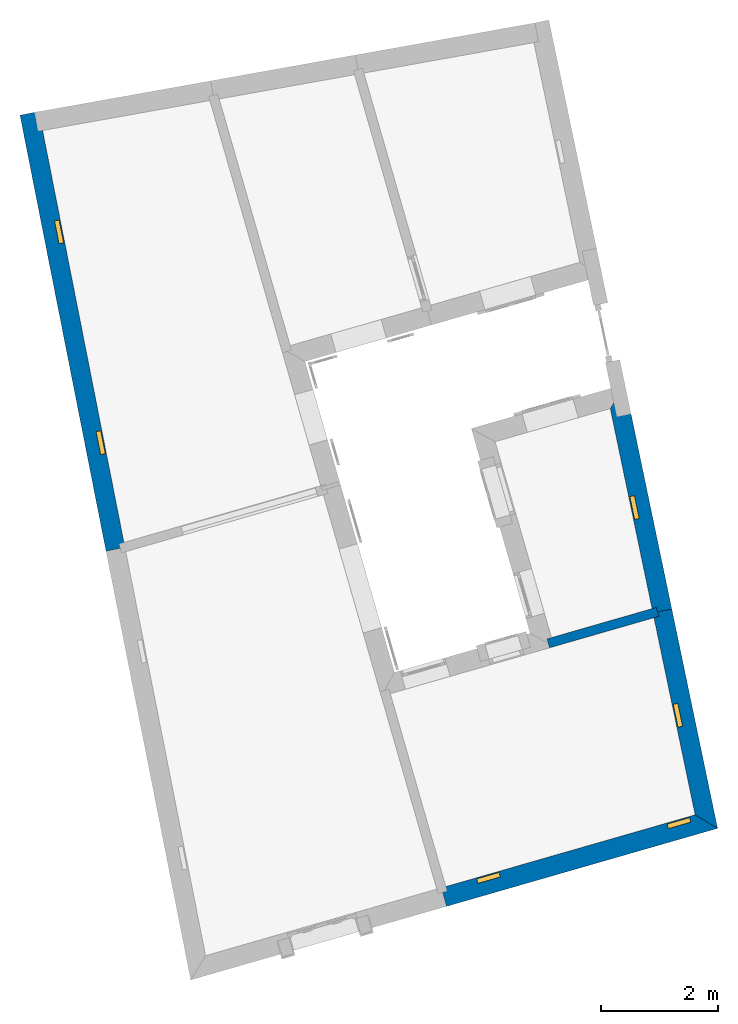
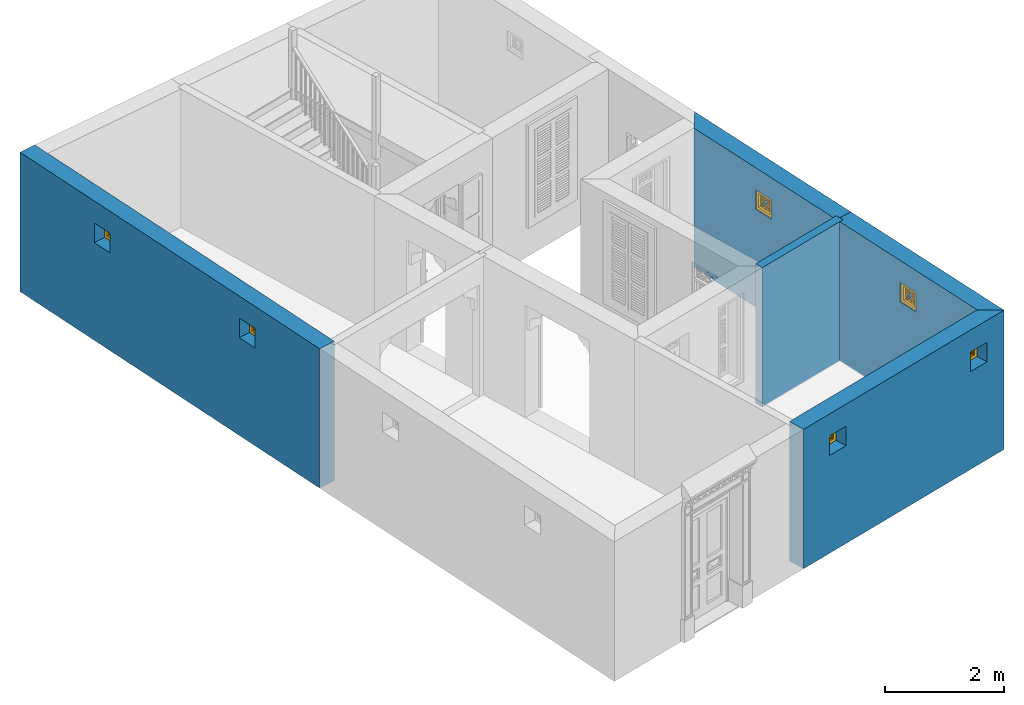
# One storey, part 7 of 16: 6 windows, 5 walls, 6 openings.
"""IFC4 building model written with IfcOpenShell, lengths in metres."""

from ifc_helpers import new_model, si_unit, frame, origin, origin_with_axes, place, context, subcontext, project, spatial, polyline, outline, extrude, faceted_brep, source, transform, mapped, material, layer, layer_set, layer_usage, type_object, type_shapes, element, fill, save


model = new_model("IFC4")

# Units and contexts
model_context = context("Model", 3, world=origin_with_axes())
body_context = subcontext(model_context, "Body", "Model", "MODEL_VIEW")
ifc_project = project(units=[si_unit("PLANEANGLEUNIT", "RADIAN"), si_unit("MASSUNIT", "GRAM", prefix="KILO"), si_unit("FORCEUNIT", "NEWTON", prefix="KILO"), si_unit("LENGTHUNIT", "METRE"), si_unit("AREAUNIT", "SQUARE_METRE"), si_unit("VOLUMEUNIT", "CUBIC_METRE")], contexts=[model_context, model_context])

# Site, building, storey
site_placement = place(None, origin_with_axes())
site = spatial("IfcSite", under=ifc_project, at=site_placement, Name="Site plot-9", CompositionType="ELEMENT")
building_placement = place(None, origin_with_axes())
building = spatial("IfcBuilding", under=site, at=building_placement, Name="Building plot-9", CompositionType="ELEMENT")
storey_placement = place(None, origin_with_axes())
storey = spatial("IfcBuildingStorey", under=building, at=storey_placement, Name="plot-9 0", CompositionType="ELEMENT", Elevation=0.0)

# Wall, openings, windows
ifc_material_1 = material(Name="Masonry")
ifc_layer_1 = layer(ifc_material_1, 0.33, ventilated=False)
ifc_layer_set_1 = layer_set([ifc_layer_1], Name="exterior_0.08_0.25")
ifc_layer_usage_1 = layer_usage(ifc_layer_set_1, "AXIS2", "POSITIVE", -0.25)
wall_type_1 = type_object("IfcWallType", Name="exterior_0.08_0.25", PredefinedType="SOLIDWALL", material=ifc_layer_set_1)
wall_1_placement = place(storey_placement, frame((-23.0511228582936, 7.53920584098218, 0.0), z_axis=(0.0, 0.0, 1.0), x_axis=(0.193675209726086, -0.981065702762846, 0.0)))
wall_1 = element("IfcWall", 1, at=wall_1_placement, inside=storey, type_object=wall_type_1, material=ifc_layer_usage_1, Name="exterior", context=body_context, shape_type="SweptSolid", body=[
    extrude(outline(polyline([(-0.249999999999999, 0.0800000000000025), (-0.249999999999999, -0.249999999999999), (7.37324033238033, -0.249999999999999), (7.37324033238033, 0.0800000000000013), (-0.249999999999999, 0.0800000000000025)])), origin_with_axes(), (0.0, 0.0, 1.0), 2.85),
])
opening_1_placement = place(wall_1_placement, frame((1.64331008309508, 0.0, 2.0)))
opening_1 = element("IfcOpeningElement", 2, at=opening_1_placement, cuts=wall_1, Name="My Opening", ObjectType="Opening", context=body_context, shape_type="SweptSolid", body=[
    extrude(outline(polyline([(0.0, -0.270000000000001), (0.4, -0.27), (0.4, 1.1), (-2.22044604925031e-16, 1.1), (0.0, -0.270000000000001)])), origin_with_axes(), (0.0, 0.0, 1.0), 0.4),
])
opening_2_placement = place(wall_1_placement, frame((5.32993024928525, 0.0, 2.0)))
opening_2 = element("IfcOpeningElement", 3, at=opening_2_placement, cuts=wall_1, Name="My Opening", ObjectType="Opening", context=body_context, shape_type="SweptSolid", body=[
    extrude(outline(polyline([(0.0, -0.27), (0.400000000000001, -0.27), (0.400000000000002, 1.1), (0.0, 1.1), (0.0, -0.27)])), origin_with_axes(), (0.0, 0.0, 1.0), 0.4),
])
window_type = type_object("IfcWindowType", Name="barred_window", PartitioningType="DOUBLE_PANEL_HORIZONTAL", PredefinedType="NOTDEFINED")
shared_shape = source(origin(), body_context, "Body", "Brep", [
    faceted_brep([(0.4, 0.25, 0.4), (0.0, 0.25, 0.4), (0.06, 0.25, 0.34), (0.34, 0.25, 0.34), (0.06, 0.33, 0.34), (0.34, 0.33, 0.34), (0.34, 0.25, 0.06), (0.4, 0.25, 0.0), (0.4, 0.33, 0.4), (0.0, 0.33, 0.4), (0.0, 0.25, 0.0), (0.06, 0.25, 0.06), (0.06, 0.33, 0.06), (0.34, 0.33, 0.06), (0.4, 0.33, 0.0), (0.0, 0.33, 0.0), (0.136152, 0.28, 0.08), (0.08, 0.28, 0.08), (0.06, 0.28, 0.06), (0.136152, 0.28, 0.06), (0.136152, 0.29, 0.08), (0.08, 0.29, 0.08), (0.06, 0.28, 0.136152), (0.08, 0.28, 0.136152), (0.06, 0.29, 0.06), (0.136152, 0.29, 0.06), (0.170294, 0.28, 0.08), (0.170294, 0.28, 0.06), (0.136152, 0.28, 0.136152), (0.136152, 0.29, 0.136152), (0.08, 0.29, 0.136152), (0.06, 0.29, 0.136152), (0.08, 0.28, 0.170294), (0.06, 0.28, 0.170294), (0.170294, 0.29, 0.06), (0.229706, 0.28, 0.08), (0.229706, 0.28, 0.06), (0.156152, 0.28, 0.094142), (0.156152, 0.28, 0.136152), (0.185858, 0.28, 0.123848), (0.185858, 0.29, 0.123848), (0.156152, 0.29, 0.094142), (0.156152, 0.29, 0.136152), (0.229706, 0.29, 0.08), (0.170294, 0.29, 0.08), (0.2, 0.28, 0.109706), (0.2, 0.29, 0.109706), (0.06, 0.29, 0.170294), (0.094142, 0.28, 0.156152), (0.08, 0.28, 0.229706), (0.06, 0.28, 0.229706), (0.229706, 0.29, 0.06), (0.263848, 0.28, 0.08), (0.263848, 0.28, 0.06), (0.156152, 0.28, 0.156152), (0.136152, 0.28, 0.156152), (0.173553, 0.28, 0.136152), (0.173553, 0.29, 0.136152), (0.156152, 0.29, 0.156152), (0.136152, 0.29, 0.156152), (0.094142, 0.29, 0.156152), (0.08, 0.29, 0.170294), (0.06, 0.29, 0.229706), (0.123848, 0.28, 0.185858), (0.109706, 0.28, 0.2), (0.08, 0.29, 0.229706), (0.08, 0.28, 0.263848), (0.06, 0.28, 0.263848), (0.263848, 0.29, 0.06), (0.2, 0.28, 0.13799), (0.214142, 0.28, 0.123848), (0.34, 0.28, 0.06), (0.32, 0.28, 0.08), (0.181838, 0.28, 0.156152), (0.136152, 0.28, 0.173553), (0.156152, 0.28, 0.181838), (0.181838, 0.29, 0.156152), (0.2, 0.29, 0.13799), (0.214142, 0.29, 0.123848), (0.136152, 0.29, 0.173553), (0.156152, 0.29, 0.181838), (0.243848, 0.28, 0.094142), (0.243848, 0.29, 0.094142), (0.263848, 0.28, 0.136152), (0.263848, 0.29, 0.08), (0.263848, 0.29, 0.136152), (0.32, 0.29, 0.08), (0.243848, 0.28, 0.136152), (0.243848, 0.29, 0.136152), (0.06, 0.29, 0.263848), (0.123848, 0.29, 0.185858), (0.13799, 0.28, 0.2), (0.123848, 0.28, 0.214142), (0.109706, 0.29, 0.2), (0.094142, 0.28, 0.243848), (0.08, 0.28, 0.32), (0.06, 0.28, 0.34), (0.34, 0.29, 0.06), (0.218162, 0.28, 0.156152), (0.226447, 0.28, 0.136152), (0.34, 0.28, 0.229706), (0.32, 0.28, 0.229706), (0.32, 0.28, 0.170294), (0.32, 0.28, 0.136152), (0.218162, 0.29, 0.156152), (0.226447, 0.29, 0.136152), (0.13799, 0.29, 0.2), (0.32, 0.29, 0.136152), (0.08, 0.29, 0.263848), (0.06, 0.29, 0.34), (0.136152, 0.28, 0.226447), (0.156152, 0.28, 0.218162), (0.094142, 0.29, 0.243848), (0.123848, 0.29, 0.214142), (0.136152, 0.28, 0.243848), (0.136152, 0.28, 0.263848), (0.08, 0.29, 0.32), (0.136152, 0.28, 0.34), (0.136152, 0.28, 0.32), (0.34, 0.29, 0.229706), (0.243848, 0.28, 0.156152), (0.263848, 0.28, 0.156152), (0.34, 0.28, 0.263848), (0.32, 0.28, 0.263848), (0.32, 0.29, 0.229706), (0.32, 0.29, 0.170294), (0.290294, 0.28, 0.2), (0.276152, 0.28, 0.185858), (0.305858, 0.28, 0.156152), (0.243848, 0.29, 0.156152), (0.263848, 0.29, 0.156152), (0.305858, 0.29, 0.156152), (0.276152, 0.29, 0.185858), (0.290294, 0.29, 0.2), (0.136152, 0.29, 0.34), (0.136152, 0.29, 0.226447), (0.156152, 0.29, 0.218162), (0.156152, 0.28, 0.243848), (0.136152, 0.29, 0.243848), (0.156152, 0.28, 0.263848), (0.136152, 0.29, 0.263848), (0.136152, 0.29, 0.32), (0.170294, 0.28, 0.32), (0.170294, 0.28, 0.34), (0.34, 0.29, 0.263848), (0.243848, 0.28, 0.181838), (0.263848, 0.28, 0.173553), (0.34, 0.28, 0.34), (0.32, 0.28, 0.32), (0.305858, 0.28, 0.243848), (0.276152, 0.28, 0.214142), (0.26201, 0.28, 0.2), (0.243848, 0.29, 0.181838), (0.263848, 0.29, 0.173553), (0.26201, 0.29, 0.2), (0.276152, 0.29, 0.214142), (0.32, 0.29, 0.263848), (0.170294, 0.29, 0.34), (0.156152, 0.29, 0.243848), (0.173553, 0.28, 0.263848), (0.181838, 0.28, 0.243848), (0.156152, 0.28, 0.305858), (0.229706, 0.28, 0.32), (0.229706, 0.28, 0.34), (0.34, 0.29, 0.34), (0.263848, 0.28, 0.34), (0.263848, 0.28, 0.32), (0.32, 0.29, 0.32), (0.263848, 0.28, 0.263848), (0.263848, 0.28, 0.243848), (0.305858, 0.29, 0.243848), (0.263848, 0.28, 0.226447), (0.243848, 0.28, 0.218162), (0.243848, 0.29, 0.218162), (0.263848, 0.29, 0.226447), (0.156152, 0.29, 0.263848), (0.170294, 0.29, 0.32), (0.229706, 0.29, 0.34), (0.181838, 0.29, 0.243848), (0.173553, 0.29, 0.263848), (0.185858, 0.28, 0.276152), (0.2, 0.28, 0.26201), (0.156152, 0.29, 0.305858), (0.229706, 0.29, 0.32), (0.263848, 0.29, 0.34), (0.263848, 0.29, 0.32), (0.263848, 0.29, 0.263848), (0.243848, 0.28, 0.243848), (0.243848, 0.28, 0.263848), (0.263848, 0.29, 0.243848), (0.243848, 0.29, 0.243848), (0.2, 0.29, 0.26201), (0.185858, 0.29, 0.276152), (0.214142, 0.28, 0.276152), (0.218162, 0.28, 0.243848), (0.226447, 0.28, 0.263848), (0.243848, 0.28, 0.305858), (0.2, 0.28, 0.290294), (0.2, 0.29, 0.290294), (0.243848, 0.29, 0.263848), (0.218162, 0.29, 0.243848), (0.214142, 0.29, 0.276152), (0.226447, 0.29, 0.263848), (0.243848, 0.29, 0.305858)], [[[0, 1, 2, 3]], [[3, 2, 4, 5]], [[3, 6, 7, 0]], [[1, 0, 8, 9]], [[1, 10, 11, 2]], [[2, 11, 12, 4]], [[9, 8, 5, 4]], [[6, 3, 5, 13]], [[6, 11, 10, 7]], [[0, 7, 14, 8]], [[10, 1, 9, 15]], [[11, 6, 13, 12]], [[4, 12, 15, 9]], [[8, 14, 13, 5]], [[7, 10, 15, 14]], [[12, 13, 14, 15]], [[16, 17, 18, 19]], [[17, 16, 20, 21]], [[22, 18, 17, 23]], [[19, 18, 24, 25]], [[26, 16, 19, 27]], [[16, 28, 29, 20]], [[21, 20, 25, 24]], [[23, 17, 21, 30]], [[18, 22, 31, 24]], [[23, 32, 33, 22]], [[27, 19, 25, 34]], [[35, 26, 27, 36]], [[28, 16, 37, 38]], [[37, 39, 40, 41]], [[38, 37, 41, 42]], [[20, 29, 42, 41]], [[26, 35, 43, 44]], [[45, 26, 44, 46]], [[20, 44, 34, 25]], [[28, 23, 30, 29]], [[24, 31, 30, 21]], [[22, 33, 47, 31]], [[48, 32, 23]], [[32, 49, 50, 33]], [[36, 27, 34, 51]], [[39, 37, 26, 45]], [[52, 35, 36, 53]], [[38, 54, 55, 28]], [[39, 56, 57, 40]], [[41, 40, 46, 44]], [[56, 38, 42, 57]], [[58, 42, 29, 59]], [[35, 45, 46, 43]], [[44, 43, 51, 34]], [[23, 28, 55, 48]], [[29, 30, 60, 59]], [[61, 30, 31, 47]], [[33, 50, 62, 47]], [[48, 63, 64, 32]], [[49, 32, 61, 65]], [[49, 66, 67, 50]], [[53, 36, 51, 68]], [[69, 39, 45, 70]], [[53, 71, 72, 52]], [[73, 54, 38, 56]], [[74, 55, 54, 75]], [[56, 39, 69, 73]], [[40, 57, 76, 77]], [[40, 77, 78, 46]], [[58, 76, 57, 42]], [[59, 79, 80, 58]], [[45, 35, 81, 70]], [[43, 46, 78, 82]], [[83, 52, 84, 85]], [[82, 84, 43]], [[52, 72, 86, 84]], [[43, 84, 68, 51]], [[44, 20, 41]], [[70, 81, 82, 78]], [[81, 87, 88, 82]], [[48, 55, 59, 60]], [[61, 60, 30]], [[65, 61, 47, 62]], [[50, 67, 89, 62]], [[63, 48, 60, 90]], [[63, 91, 92, 64]], [[32, 64, 93, 61]], [[64, 49, 65, 93]], [[94, 66, 49]], [[66, 95, 96, 67]], [[71, 53, 68, 97]], [[98, 69, 70, 99]], [[81, 52, 83, 87]], [[72, 71, 100]], [[100, 101, 102]], [[103, 72, 100]], [[100, 102, 103]], [[54, 73, 76, 58]], [[55, 74, 79, 59]], [[75, 54, 58, 80]], [[63, 74, 75, 91]], [[73, 69, 77, 76]], [[77, 104, 105, 78]], [[79, 90, 106, 80]], [[84, 82, 88, 85]], [[103, 83, 85, 107]], [[72, 103, 107, 86]], [[97, 68, 84, 86]], [[99, 70, 78, 105]], [[87, 99, 105, 88]], [[90, 60, 61, 93]], [[108, 65, 62, 89]], [[67, 96, 109, 89]], [[74, 63, 90, 79]], [[110, 92, 91, 111]], [[49, 64, 92, 94]], [[93, 65, 112, 113]], [[94, 114, 115, 66]], [[95, 66, 108, 116]], [[117, 96, 95, 118]], [[100, 71, 97, 119]], [[69, 98, 104, 77]], [[99, 87, 120, 98]], [[87, 83, 121, 120]], [[101, 100, 122, 123]], [[102, 101, 124, 125]], [[121, 83, 103]], [[103, 102, 126]], [[126, 127, 128]], [[128, 121, 103]], [[103, 126, 128]], [[91, 75, 80, 106]], [[88, 105, 104, 129]], [[106, 90, 93, 113]], [[85, 88, 129, 130]], [[107, 85, 130]], [[131, 132, 133]], [[107, 130, 131]], [[133, 125, 107]], [[107, 131, 133]], [[124, 119, 97]], [[97, 86, 107]], [[107, 125, 124]], [[97, 107, 124]], [[108, 112, 65]], [[116, 108, 89, 109]], [[96, 117, 134, 109]], [[92, 110, 135, 113]], [[111, 91, 106, 136]], [[114, 110, 111, 137]], [[94, 92, 113, 112]], [[114, 94, 112, 138]], [[114, 137, 139, 115]], [[66, 115, 140, 108]], [[118, 95, 116, 141]], [[118, 142, 143, 117]], [[122, 100, 119, 144]], [[98, 120, 129, 104]], [[145, 120, 121, 146]], [[122, 147, 148, 123]], [[123, 149, 101]], [[101, 126, 133, 124]], [[126, 102, 125, 133]], [[127, 126, 150, 151]], [[128, 127, 132, 131]], [[121, 128, 131, 130]], [[113, 135, 136, 106]], [[129, 152, 153, 130]], [[133, 132, 154, 155]], [[119, 124, 156, 144]], [[138, 112, 108, 140]], [[109, 134, 141, 116]], [[117, 143, 157, 134]], [[110, 114, 138, 135]], [[137, 111, 136, 158]], [[159, 139, 137, 160]], [[118, 115, 139, 161]], [[115, 118, 141, 140]], [[161, 142, 118]], [[162, 163, 143, 142]], [[147, 122, 144, 164]], [[120, 145, 152, 129]], [[146, 121, 130, 153]], [[146, 127, 151, 145]], [[147, 165, 166, 148]], [[123, 148, 167, 156]], [[149, 123, 168, 169]], [[149, 150, 126, 101]], [[155, 170, 124, 133]], [[151, 150, 171, 172]], [[127, 146, 153, 132]], [[135, 138, 158, 136]], [[132, 153, 152, 154]], [[155, 154, 173, 174]], [[170, 156, 124]], [[164, 144, 156, 167]], [[158, 138, 140, 175]], [[176, 141, 134, 157]], [[143, 163, 177, 157]], [[160, 137, 158, 178]], [[139, 159, 179, 175]], [[180, 159, 160, 181]], [[161, 139, 175, 182]], [[140, 141, 182, 175]], [[166, 165, 163, 162]], [[162, 142, 176, 183]], [[165, 147, 164, 184]], [[145, 151, 154, 152]], [[148, 166, 185, 167]], [[156, 186, 168, 123]], [[187, 169, 168, 188]], [[149, 169, 189, 170]], [[150, 149, 170, 155]], [[171, 150, 155, 174]], [[171, 169, 187, 172]], [[151, 172, 173, 154]], [[189, 174, 173, 190]], [[156, 170, 189, 186]], [[184, 164, 167, 185]], [[175, 179, 178, 158]], [[176, 182, 141]], [[177, 183, 176, 157]], [[163, 165, 184, 177]], [[181, 160, 178, 191]], [[159, 180, 192, 179]], [[180, 161, 182, 192]], [[193, 181, 194, 195]], [[196, 162, 197, 193]], [[180, 197, 142, 161]], [[197, 180, 181, 193]], [[142, 197, 198, 176]], [[162, 196, 166]], [[35, 52, 81]], [[197, 162, 183, 198]], [[185, 166, 168, 186]], [[196, 188, 168, 166]], [[187, 188, 195, 194]], [[169, 171, 174, 189]], [[172, 187, 190, 173]], [[189, 190, 199, 186]], [[184, 185, 183, 177]], [[179, 192, 191, 178]], [[176, 198, 192, 182]], [[194, 181, 191, 200]], [[191, 192, 198, 201]], [[26, 37, 16]], [[193, 195, 202, 201]], [[196, 193, 201, 203]], [[191, 201, 202, 200]], [[183, 203, 201, 198]], [[188, 196, 203, 199]], [[203, 183, 185]], [[199, 203, 185, 186]], [[195, 188, 199, 202]], [[187, 194, 200, 190]], [[199, 190, 200, 202]]]),
])
type_shapes(window_type, [shared_shape])
window_1_placement = place(storey_placement, frame((-22.9977421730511, 5.87471837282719, 2.0), z_axis=(0.0, 0.0, 1.0), x_axis=(0.0774700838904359, -0.392426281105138, 0.0)))
window_1 = element("IfcWindow", 4, at=window_1_placement, inside=storey, type_object=window_type, Name="kitchen street window", OverallHeight=0.4, OverallWidth=0.4, context=body_context, shape_type="MappedRepresentation", body=[
    mapped(shared_shape, transform((0.0, 0.0, 0.0), scale=1.0)),
])
fill(opening_1, window_1)
window_2_placement = place(storey_placement, frame((-22.2837352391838, 2.25790176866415, 2.0), z_axis=(0.0, 0.0, 1.0), x_axis=(0.0774700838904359, -0.392426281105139, 0.0)))
window_2 = element("IfcWindow", 5, at=window_2_placement, inside=storey, type_object=window_type, Name="kitchen street window", OverallHeight=0.4, OverallWidth=0.4, context=body_context, shape_type="MappedRepresentation", body=[
    mapped(shared_shape, transform((0.0, 0.0, 0.0), scale=1.0)),
])
fill(opening_2, window_2)

wall_2_placement = place(storey_placement, frame((-16.0944821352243, -5.59702537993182, 0.0), z_axis=(0.0, 0.0, 1.0), x_axis=(0.961007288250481, 0.276523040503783, 0.0)))
wall_2 = element("IfcWall", 6, at=wall_2_placement, inside=storey, type_object=wall_type_1, material=ifc_layer_usage_1, Name="exterior", context=body_context, shape_type="SweptSolid", body=[
    extrude(outline(polyline([(-1.01682823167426e-16, 0.0800000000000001), (-2.0386045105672e-15, -0.25), (4.83788742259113, -0.25), (4.53155176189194, 0.08), (-1.01682823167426e-16, 0.0800000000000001)])), origin_with_axes(), (0.0, 0.0, 1.0), 2.85),
])
opening_3_placement = place(wall_2_placement, frame((0.625814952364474, 0.0, 2.0)))
opening_3 = element("IfcOpeningElement", 7, at=opening_3_placement, cuts=wall_2, Name="My Opening", ObjectType="Opening", context=body_context, shape_type="SweptSolid", body=[
    extrude(outline(polyline([(0.0, -0.270000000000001), (0.399999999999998, -0.27), (0.399999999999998, 1.1), (2.22044604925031e-16, 1.1), (0.0, -0.270000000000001)])), origin_with_axes(), (0.0, 0.0, 1.0), 0.4),
])
opening_4_placement = place(wall_2_placement, frame((4.02581495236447, 0.0, 2.0)))
opening_4 = element("IfcOpeningElement", 8, at=opening_4_placement, cuts=wall_2, Name="My Opening", ObjectType="Opening", context=body_context, shape_type="SweptSolid", body=[
    extrude(outline(polyline([(0.0, -0.27), (0.4, -0.27), (0.4, 1.1), (0.0, 1.1), (0.0, -0.27)])), origin_with_axes(), (0.0, 0.0, 1.0), 0.4),
])
window_3_placement = place(storey_placement, frame((-15.4184081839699, -5.6834450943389, 2.0), z_axis=(0.0, 0.0, 1.0), x_axis=(0.384402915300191, 0.110609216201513, 0.0)))
window_3 = element("IfcWindow", 9, at=window_3_placement, inside=storey, type_object=window_type, Name="bedroom street window", OverallHeight=0.4, OverallWidth=0.4, context=body_context, shape_type="MappedRepresentation", body=[
    mapped(shared_shape, transform((0.0, 0.0, 0.0), scale=1.0)),
])
fill(opening_3, window_3)
window_4_placement = place(storey_placement, frame((-12.1509834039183, -4.74326675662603, 2.0), z_axis=(0.0, 0.0, 1.0), x_axis=(0.384402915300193, 0.110609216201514, 0.0)))
window_4 = element("IfcWindow", 10, at=window_4_placement, inside=storey, type_object=window_type, Name="bedroom street window", OverallHeight=0.4, OverallWidth=0.4, context=body_context, shape_type="MappedRepresentation", body=[
    mapped(shared_shape, transform((0.0, 0.0, 0.0), scale=1.0)),
])
fill(opening_4, window_4)

# Wall, opening, window
wall_3_placement = place(storey_placement, frame((-11.668260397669, -4.32341142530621, 0.0), z_axis=(0.0, 0.0, 1.0), x_axis=(-0.20438120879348, 0.97889137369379, 0.0)))
wall_3 = element("IfcWall", 11, at=wall_3_placement, inside=storey, type_object=wall_type_1, material=ifc_layer_usage_1, Name="exterior", context=body_context, shape_type="SweptSolid", body=[
    extrude(outline(polyline([(0.0742631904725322, 0.0800000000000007), (-0.232072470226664, -0.249999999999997), (3.61435348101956, -0.250000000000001), (3.61435348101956, 0.0799999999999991), (0.0742631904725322, 0.0800000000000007)])), origin_with_axes(), (0.0, 0.0, 1.0), 2.85),
])
opening_5_placement = place(wall_3_placement, frame((1.60717674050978, 0.0, 2.0)))
opening_5 = element("IfcOpeningElement", 12, at=opening_5_placement, cuts=wall_3, Name="My Opening", ObjectType="Opening", context=body_context, shape_type="SweptSolid", body=[
    extrude(outline(polyline([(0.0, -0.270000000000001), (0.399999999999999, -0.27), (0.399999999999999, 1.1), (2.22044604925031e-16, 1.1), (0.0, -0.270000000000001)])), origin_with_axes(), (0.0, 0.0, 1.0), 0.4),
])
window_5_placement = place(storey_placement, frame((-11.7324364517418, -2.69497705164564, 2.0), z_axis=(0.0, 0.0, 1.0), x_axis=(-0.0817524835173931, 0.391556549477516, 0.0)))
window_5 = element("IfcWindow", 13, at=window_5_placement, inside=storey, type_object=window_type, Name="bedroom street window", OverallHeight=0.4, OverallWidth=0.4, context=body_context, shape_type="MappedRepresentation", body=[
    mapped(shared_shape, transform((0.0, 0.0, 0.0), scale=1.0)),
])
fill(opening_5, window_5)

wall_4_placement = place(storey_placement, frame((-12.4069663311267, -0.785351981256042, 0.0), z_axis=(0.0, 0.0, 1.0), x_axis=(-0.204381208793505, 0.978891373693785, 0.0)))
wall_4 = element("IfcWall", 14, at=wall_4_placement, inside=storey, type_object=wall_type_1, material=ifc_layer_usage_1, Name="exterior", context=body_context, shape_type="SweptSolid", body=[
    extrude(outline(polyline([(1.87007326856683e-15, 0.0799999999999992), (-6.53500776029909e-15, -0.25), (3.93651179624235, -0.249999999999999), (3.58101939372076, 0.0800000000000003), (1.87007326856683e-15, 0.0799999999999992)])), origin_with_axes(), (0.0, 0.0, 1.0), 2.85),
])
opening_6_placement = place(wall_4_placement, frame((1.63359968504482, 0.0, 2.0)))
opening_6 = element("IfcOpeningElement", 15, at=opening_6_placement, cuts=wall_4, Name="My Opening", ObjectType="Opening", context=body_context, shape_type="SweptSolid", body=[
    extrude(outline(polyline([(0.0, -0.27), (0.4, -0.27), (0.4, 1.1), (-4.44089209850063e-16, 1.1), (0.0, -0.27)])), origin_with_axes(), (0.0, 0.0, 1.0), 0.4),
])
window_6_placement = place(storey_placement, frame((-12.4765427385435, 0.868947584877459, 2.0), z_axis=(0.0, 0.0, 1.0), x_axis=(-0.0817524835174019, 0.391556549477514, 0.0)))
window_6 = element("IfcWindow", 16, at=window_6_placement, inside=storey, type_object=window_type, Name="bedroom street window", OverallHeight=0.4, OverallWidth=0.4, context=body_context, shape_type="MappedRepresentation", body=[
    mapped(shared_shape, transform((0.0, 0.0, 0.0), scale=1.0)),
])
fill(opening_6, window_6)

# Wall
ifc_material_2 = material(Name="Masonry")
ifc_layer_2 = layer(ifc_material_2, 0.16, ventilated=False)
ifc_layer_set_2 = layer_set([ifc_layer_2], Name="interior_0.08_0.08")
ifc_layer_usage_2 = layer_usage(ifc_layer_set_2, "AXIS2", "POSITIVE", -0.08)
wall_type_2 = type_object("IfcWallType", Name="interior_0.08_0.08", PredefinedType="SOLIDWALL", material=ifc_layer_set_2)
wall_5_placement = place(storey_placement, frame((-12.4069663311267, -0.785351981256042, 0.0), z_axis=(0.0, 0.0, 1.0), x_axis=(-0.961007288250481, -0.276523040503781, 0.0)))
element("IfcWall", 17, at=wall_5_placement, inside=storey, type_object=wall_type_2, material=ifc_layer_usage_2, Name="interior", context=body_context, shape_type="SweptSolid", body=[
    extrude(outline(polyline([(-2.27858582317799e-16, 0.0800000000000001), (2.1806140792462e-16, -0.0800000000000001), (1.95087771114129, -0.0800000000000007), (1.95087771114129, 0.0799999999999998), (-2.27858582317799e-16, 0.0800000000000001)])), origin_with_axes(), (0.0, 0.0, 1.0), 2.85),
])

save(model, "model.ifc")
